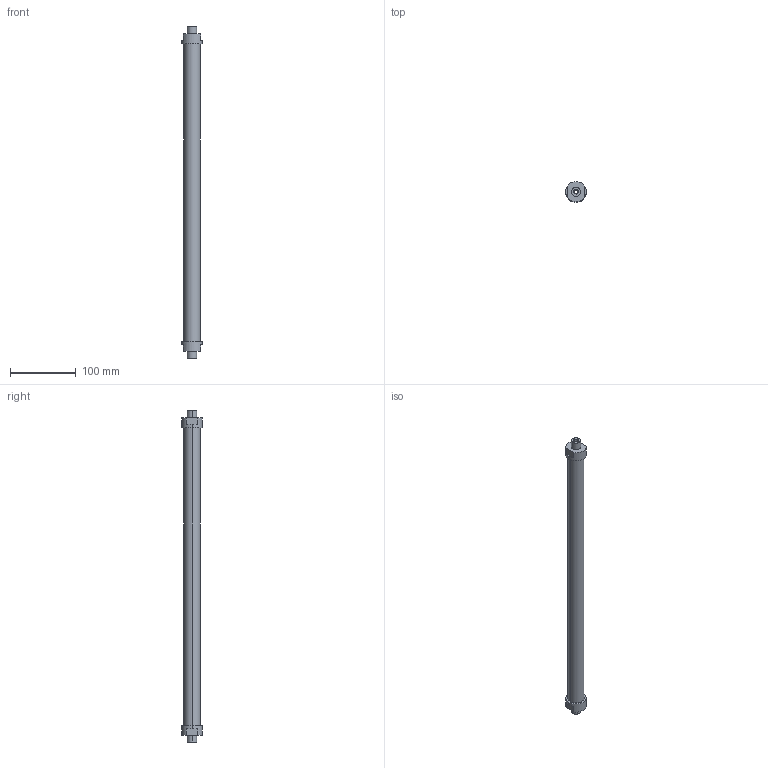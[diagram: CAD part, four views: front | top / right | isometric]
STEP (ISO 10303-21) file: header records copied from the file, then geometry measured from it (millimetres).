
FILE_DESCRIPTION(('STEP AP214'),'1');
FILE_NAME('ETT-R050G494.stp','2015-02-02T11:48:09',(' '),(' '),'Spatial InterOp 3D',' ',' ');
FILE_SCHEMA(('automotive_design'));
Length unit declared in the file: metre
Products named in the file (3): 1; 2; 3
Bounding box: 31 x 31 x 506 mm (x, y, z)
Volume: 233434.6 mm3; surface area: 51539.1 mm2
Topology: 1 solids, 7 shells, 32 faces, 86 edges, 66 vertices
Faces by surface type: cylinder 16, plane 16
Entity records: 1375 total; most frequent: DIRECTION 206, CARTESIAN_POINT 187, ORIENTED_EDGE 148, EDGE_CURVE 86, AXIS2_PLACEMENT_3D 85, VERTEX_POINT 66, CIRCLE 50, EDGE_LOOP 40
